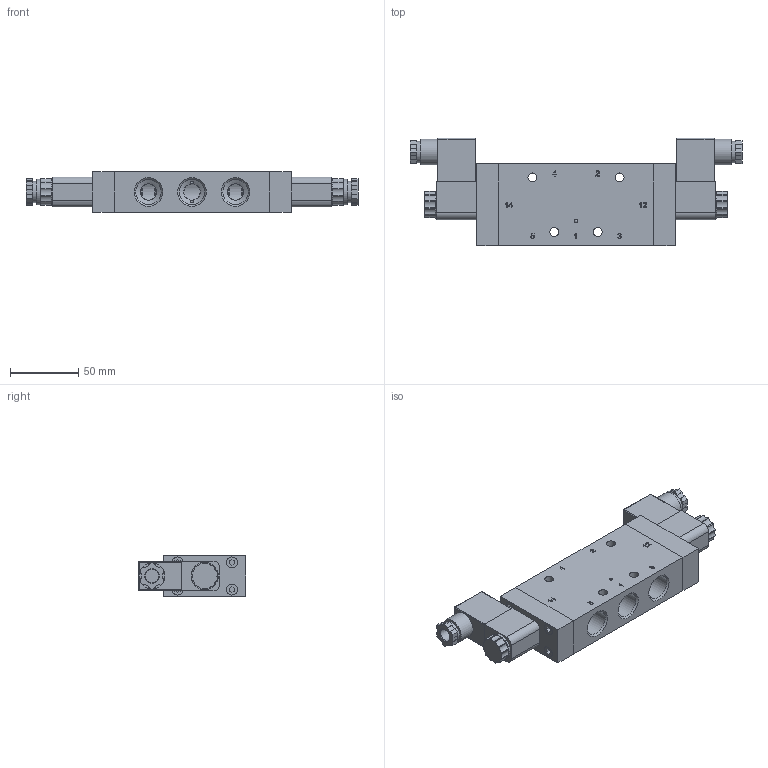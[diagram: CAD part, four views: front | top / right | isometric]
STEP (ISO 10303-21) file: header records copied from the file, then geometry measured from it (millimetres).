
FILE_DESCRIPTION(/* description */ ('Unknown','CAx-IF Rec.Pracs.---Representation and Presentation of Product Manufacturing Information (PMI)---4.0---2014-10-13','CAx-IF Rec.Pracs.---3D Tessellated Geometry---0.4---2014-09-14','2;1'),/* implementation_level */ '2;1');
FILE_NAME(/* name */ 'MH 520 121 + MA 22 24 DC + ST 22 M',/* time_stamp */ '2019-06-20T09:56:18+02:00',/* author */ ('Unknown'),/* organization */ ('Unknown'),/* preprocessor_version */ 'ST-DEVELOPER v16.7',/* originating_system */ 'DEX',/* authorisation */ $);
FILE_SCHEMA (('AP242_MANAGED_MODEL_BASED_3D_ENGINEERING_MIM_LF { 1 0 10303 442 20130219 1 4 }'));
Length unit declared in the file: millimetre
Products named in the file (2): MH 520 121 + MA 22 24 DC + ST 22 M
Assembly tree (1 placements, depth 2):
  MH 520 121 + MA 22 24 DC + ST 22 M
    MH 520 121 + MA 22 24 DC + ST 22 M
Bounding box: 244 x 78.7 x 30 mm (x, y, z)
Volume: 273728.8 mm3; surface area: 79905.3 mm2
Topology: 9 solids, 9 shells, 798 faces, 2047 edges, 1345 vertices
Faces by surface type: plane 502, cylinder 166, bspline 80, cone 40, sphere 10
Full cylindrical faces by diameter (mm): 1.5 x6, 2.375 x2, 2.4 x2, 2.459 x4, 3.236 x2, 4.134 x16, 6 x2, 6.1 x2, 6.6 x4, 7.3 x2, 8 x10, 8.15 x2, 8.5 x2, 9 x2, 9.15 x2, 9.75 x2, 11.6 x2, 12 x5, 14.5 x2, 15.6 x2, 16 x4, 18.631 x10, 19 x2, 20 x2, 22 x5
Entity records: 29837 total; most frequent: CARTESIAN_POINT 6118, ORIENTED_EDGE 3646, DIRECTION 3422, EDGE_CURVE 1823, VERTEX_POINT 1277, LINE 1238, VECTOR 1238, AXIS2_PLACEMENT_3D 1092
